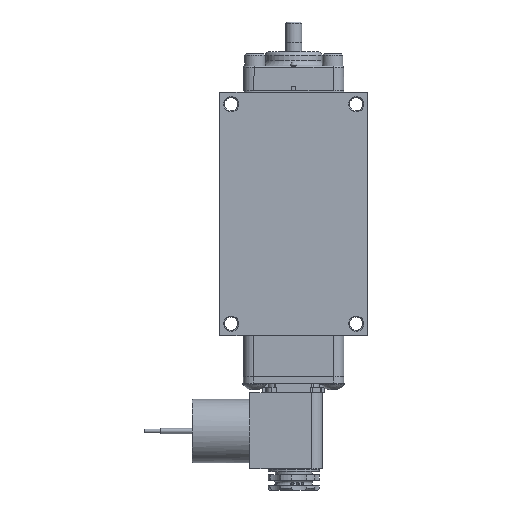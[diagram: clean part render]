
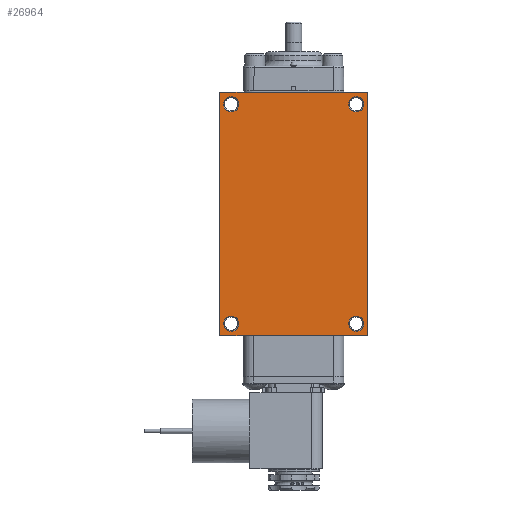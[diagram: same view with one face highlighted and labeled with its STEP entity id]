
A CAD part, front view. The second image highlights one B-rep face of the part: STEP entity #26964.
In plain terms, the highlighted planar face has unit normal (0, -1, 0).
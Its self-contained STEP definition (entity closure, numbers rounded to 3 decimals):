
#1112=FACE_BOUND('',#3966,.T.);
#1113=FACE_BOUND('',#3967,.T.);
#1114=FACE_BOUND('',#3968,.T.);
#1115=FACE_BOUND('',#3969,.T.);
#1454=PLANE('',#28682);
#2341=FACE_OUTER_BOUND('',#3965,.T.);
#3965=EDGE_LOOP('',(#18952,#18953,#18954,#18955));
#3966=EDGE_LOOP('',(#18956));
#3967=EDGE_LOOP('',(#18957));
#3968=EDGE_LOOP('',(#18958));
#3969=EDGE_LOOP('',(#18959));
#5511=CIRCLE('',#28680,0.296);
#5513=CIRCLE('',#28683,0.296);
#5514=CIRCLE('',#28684,0.296);
#5515=CIRCLE('',#28685,0.296);
#6770=LINE('',#44605,#8760);
#6778=LINE('',#44630,#8768);
#6997=LINE('',#45748,#8987);
#7240=LINE('',#47172,#9230);
#8760=VECTOR('',#31560,1.);
#8768=VECTOR('',#31578,1.);
#8987=VECTOR('',#31965,1.);
#9230=VECTOR('',#32358,1.);
#10851=VERTEX_POINT('',#44602);
#10852=VERTEX_POINT('',#44604);
#10863=VERTEX_POINT('',#44627);
#10864=VERTEX_POINT('',#44629);
#11372=VERTEX_POINT('',#47937);
#11374=VERTEX_POINT('',#47943);
#11375=VERTEX_POINT('',#47945);
#11376=VERTEX_POINT('',#47947);
#13386=EDGE_CURVE('',#10851,#10852,#6770,.T.);
#13398=EDGE_CURVE('',#10863,#10864,#6778,.T.);
#13689=EDGE_CURVE('',#10852,#10863,#6997,.T.);
#14026=EDGE_CURVE('',#10864,#10851,#7240,.T.);
#14159=EDGE_CURVE('',#11372,#11372,#5511,.T.);
#14162=EDGE_CURVE('',#11374,#11374,#5513,.T.);
#14163=EDGE_CURVE('',#11375,#11375,#5514,.T.);
#14164=EDGE_CURVE('',#11376,#11376,#5515,.T.);
#18952=ORIENTED_EDGE('',*,*,#14026,.F.);
#18953=ORIENTED_EDGE('',*,*,#13398,.F.);
#18954=ORIENTED_EDGE('',*,*,#13689,.F.);
#18955=ORIENTED_EDGE('',*,*,#13386,.F.);
#18956=ORIENTED_EDGE('',*,*,#14162,.F.);
#18957=ORIENTED_EDGE('',*,*,#14163,.F.);
#18958=ORIENTED_EDGE('',*,*,#14164,.F.);
#18959=ORIENTED_EDGE('',*,*,#14159,.F.);
#26964=ADVANCED_FACE('',(#2341,#1112,#1113,#1114,#1115),#1454,.F.);
#28680=AXIS2_PLACEMENT_3D('',#47938,#32601,#32602);
#28682=AXIS2_PLACEMENT_3D('',#47942,#32606,#32607);
#28683=AXIS2_PLACEMENT_3D('',#47944,#32608,#32609);
#28684=AXIS2_PLACEMENT_3D('',#47946,#32610,#32611);
#28685=AXIS2_PLACEMENT_3D('',#47948,#32612,#32613);
#31560=DIRECTION('',(-1.,0.,0.));
#31578=DIRECTION('',(1.,0.,0.));
#31965=DIRECTION('',(0.,0.,1.));
#32358=DIRECTION('',(0.,0.,-1.));
#32601=DIRECTION('center_axis',(0.,-1.,0.));
#32602=DIRECTION('ref_axis',(1.,0.,0.));
#32606=DIRECTION('center_axis',(0.,1.,0.));
#32607=DIRECTION('ref_axis',(0.,0.,1.));
#32608=DIRECTION('center_axis',(0.,-1.,0.));
#32609=DIRECTION('ref_axis',(1.,0.,0.));
#32610=DIRECTION('center_axis',(0.,-1.,0.));
#32611=DIRECTION('ref_axis',(1.,0.,0.));
#32612=DIRECTION('center_axis',(0.,-1.,0.));
#32613=DIRECTION('ref_axis',(1.,0.,0.));
#44602=CARTESIAN_POINT('',(2.858,-1.636,-4.71));
#44604=CARTESIAN_POINT('',(-2.858,-1.636,-4.71));
#44605=CARTESIAN_POINT('',(-2.858,-1.636,-4.71));
#44627=CARTESIAN_POINT('',(-2.858,-1.636,4.71));
#44629=CARTESIAN_POINT('',(2.858,-1.636,4.71));
#44630=CARTESIAN_POINT('',(2.858,-1.636,4.71));
#45748=CARTESIAN_POINT('',(-2.858,-1.636,4.71));
#47172=CARTESIAN_POINT('',(2.858,-1.636,-4.71));
#47937=CARTESIAN_POINT('',(2.125,-1.636,4.247));
#47938=CARTESIAN_POINT('Origin',(2.421,-1.636,4.247));
#47942=CARTESIAN_POINT('Origin',(0.,-1.636,0.));
#47943=CARTESIAN_POINT('',(-2.717,-1.636,4.247));
#47944=CARTESIAN_POINT('Origin',(-2.421,-1.636,4.247));
#47945=CARTESIAN_POINT('',(2.125,-1.636,-4.247));
#47946=CARTESIAN_POINT('Origin',(2.421,-1.636,-4.247));
#47947=CARTESIAN_POINT('',(-2.717,-1.636,-4.247));
#47948=CARTESIAN_POINT('Origin',(-2.421,-1.636,-4.247));
